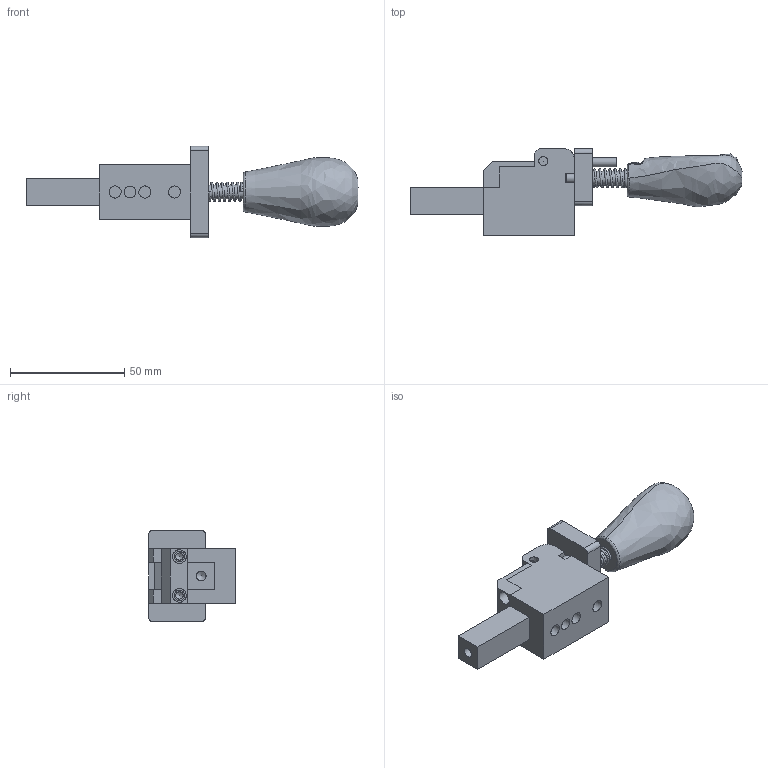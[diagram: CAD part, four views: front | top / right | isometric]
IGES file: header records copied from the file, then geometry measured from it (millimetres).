
Global section: file name: KCP-22ST-CLAMP; native system: Autodesk Inventor 2019; preprocessor: unknown; author: 桶田 勝弘,,11,0, ; organization: 20171008.235212; date: 20240514.155248; units: millimetre
Bounding box: 145.25 x 38 x 40 mm (x, y, z)
Volume: 59772 mm3; surface area: 26633.9 mm2
Topology: 11 solids, 11 shells, 250 faces, 671 edges, 448 vertices
Faces by surface type: bspline 250
